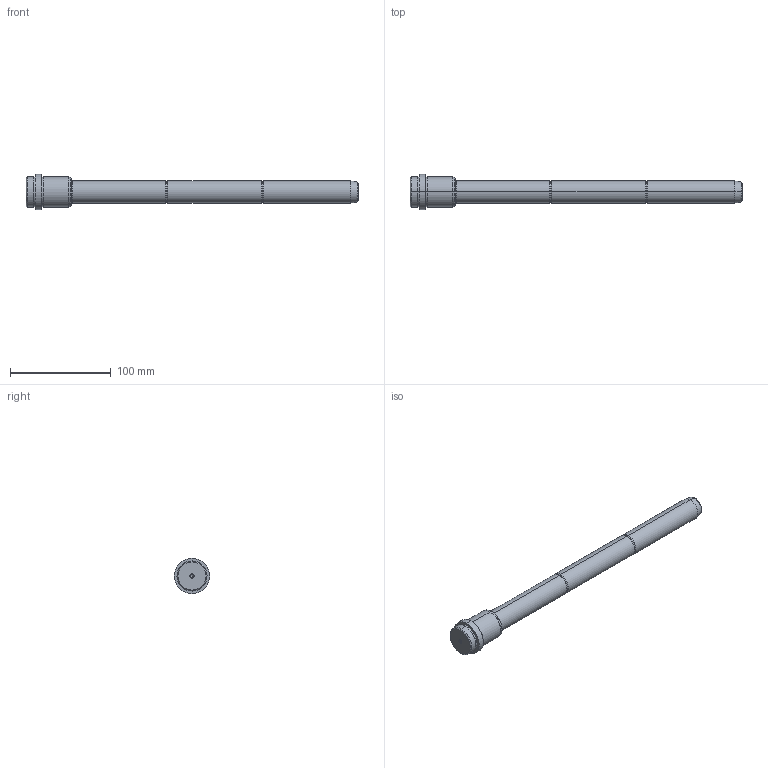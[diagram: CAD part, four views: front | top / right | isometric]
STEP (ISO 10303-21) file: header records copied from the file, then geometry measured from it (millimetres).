
FILE_DESCRIPTION( ( 'STEP AP203' ), '1' );
FILE_NAME( 'C:/Projects/D03 - 22x36x285.step', '2003-01-03T00:30:15', ( ' ' ), ( ' ' ), 'XStep 1.0', ' ', ' ' );
FILE_SCHEMA( ( 'CONFIG_CONTROL_DESIGN' ) );
Length unit declared in the file: metre
Products named in the file (1): 1
Bounding box: 330 x 35 x 35 mm (x, y, z)
Volume: 140939.4 mm3; surface area: 25954.3 mm2
Topology: 1 solids, 1 shells, 56 faces, 113 edges, 64 vertices
Faces by surface type: revolution 36, bspline 20
Entity records: 1691 total; most frequent: CARTESIAN_POINT 513, ORIENTED_EDGE 220, DIRECTION 218, EDGE_CURVE 110, AXIS2_PLACEMENT_3D 73, CIRCLE 72, EDGE_LOOP 64, VERTEX_POINT 64
